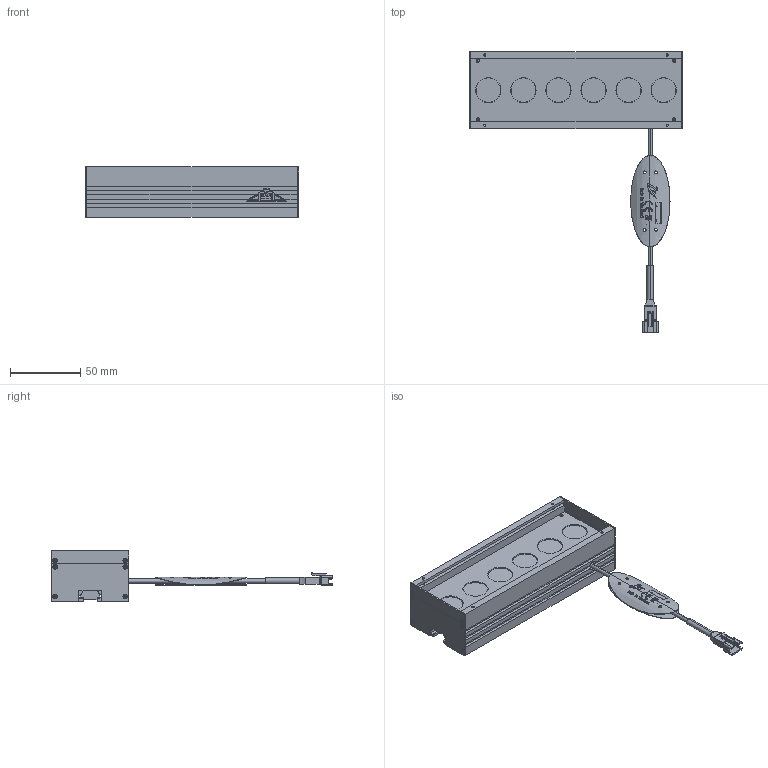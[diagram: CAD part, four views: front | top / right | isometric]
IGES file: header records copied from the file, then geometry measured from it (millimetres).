
Start section: 3D InterOp IGES (v. 2019 1.0.2), Spatial Corp. Copyright (c) 1999-2017.
Global section: file name: VBAL-15030_DRAWING_3D.iges; native system: Spatial Corp.; preprocessor: 3D InterOp ACIS/IGES; author: Noname; organization: Noname; date: 20231003.171348; units: millimetre
Bounding box: 152 x 200.2 x 36 mm (x, y, z)
Surface area: 89738.7 mm2 (no closed solid volume)
Topology: 0 solids, 0 shells, 1018 faces, 5772 edges, 5710 vertices
Faces by surface type: extrusion 567, revolution 427, bspline 24
